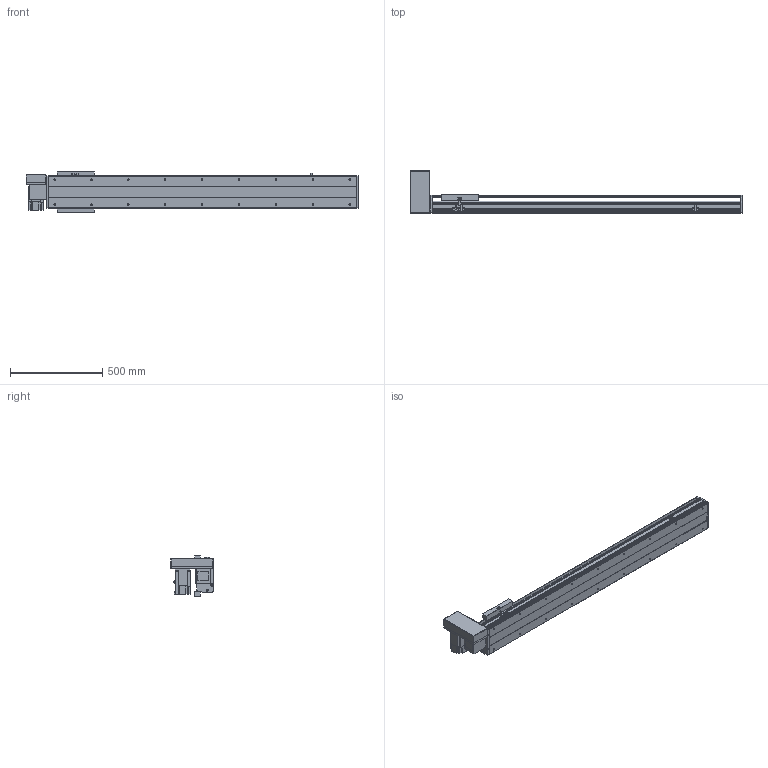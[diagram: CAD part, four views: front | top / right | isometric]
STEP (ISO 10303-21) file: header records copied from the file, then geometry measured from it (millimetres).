
FILE_DESCRIPTION(/* description */ ('STEP AP214'),/* implementation_level */ '2;1');
FILE_NAME(/* name */ 'PBS200-P40-S1300-RU-T75-C1-N(0)',/* time_stamp */ '2022-06-11T09:35:46+02:00',/* author */ ('License CC BY-ND 4.0'),/* organization */ ('CADENAS'),/* preprocessor_version */ 'ST-DEVELOPER v18.102',/* originating_system */ 'PARTsolutions',/* authorisation */ ' ');
FILE_SCHEMA (('AUTOMOTIVE_DESIGN {1 0 10303 214 3 1 1}'));
Length unit declared in the file: millimetre
Products named in the file (7): PBS200-P40-S1300-RU-T75-C1-N(0); PBS200_sensor; PBS200_plant; PBS200_sliser; T75-p1; PBS200T-RU_motors; PBS200-S1300()_body
Assembly tree (8 placements, depth 2):
  PBS200-P40-S1300-RU-T75-C1-N(0)
    PBS200_sensor  x3
    PBS200_plant
    PBS200_sliser
    T75-p1
    PBS200T-RU_motors
    PBS200-S1300()_body
Bounding box: 1800 x 231 x 221 mm (x, y, z)
Volume: 13110994.8 mm3; surface area: 2114686.4 mm2
Topology: 8 solids, 8 shells, 926 faces, 2384 edges, 1554 vertices
Faces by surface type: plane 576, cylinder 300, cone 50
Full cylindrical faces by diameter (mm): 2.459 x6, 3.242 x4, 4.5 x6, 4.917 x4, 5 x6, 6 x7, 6.6 x8, 6.647 x22, 8 x6, 10 x4, 12 x8, 38 x2, 40 x1, 70 x1
Entity records: 24701 total; most frequent: DIRECTION 4351, CARTESIAN_POINT 4210, ORIENTED_EDGE 3994, EDGE_CURVE 1997, AXIS2_PLACEMENT_3D 1519, VERTEX_POINT 1378, LINE 1313, VECTOR 1313
